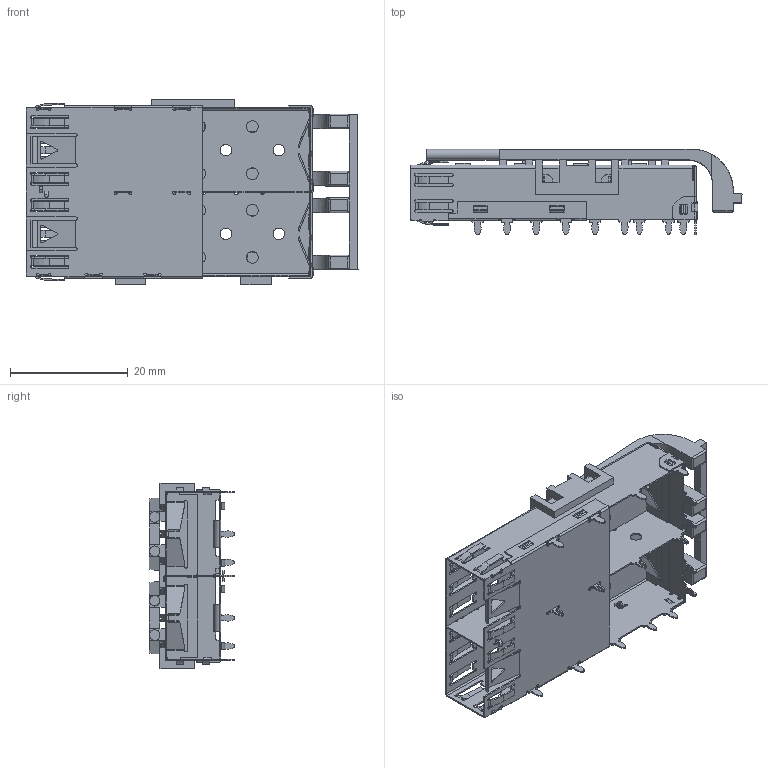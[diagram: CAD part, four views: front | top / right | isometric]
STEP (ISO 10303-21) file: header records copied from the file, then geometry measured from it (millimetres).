
FILE_DESCRIPTION (( 'STEP AP203' ), '1' );
FILE_NAME ('10700712W008-諦誧3D.STEP', '2023-07-14T10:02:35', ( '' ), ( '' ), 'SwSTEP 2.0', 'SolidWorks 2016', '' );
FILE_SCHEMA (( 'CONFIG_CONTROL_DESIGN' ));
Length unit declared in the file: millimetre
Products named in the file (2): 錨璃87^10700712W008-諦誧3D; 10700712W008-諦誧3D
Assembly tree (1 placements, depth 2):
  10700712W008-諦誧3D
    錨璃87^10700712W008-諦誧3D
Bounding box: 56.48 x 14.49 x 31.5 mm (x, y, z)
Volume: 2269.4 mm3; surface area: 10391.6 mm2
Topology: 1 solids, 1 shells, 1724 faces, 5211 edges, 3369 vertices
Faces by surface type: plane 872, cylinder 836, bspline 16
Entity records: 60580 total; most frequent: CARTESIAN_POINT 12638, ORIENTED_EDGE 10422, DIRECTION 9778, EDGE_CURVE 5211, VECTOR 3426, LINE 3426, VERTEX_POINT 3371, AXIS2_PLACEMENT_3D 3176
